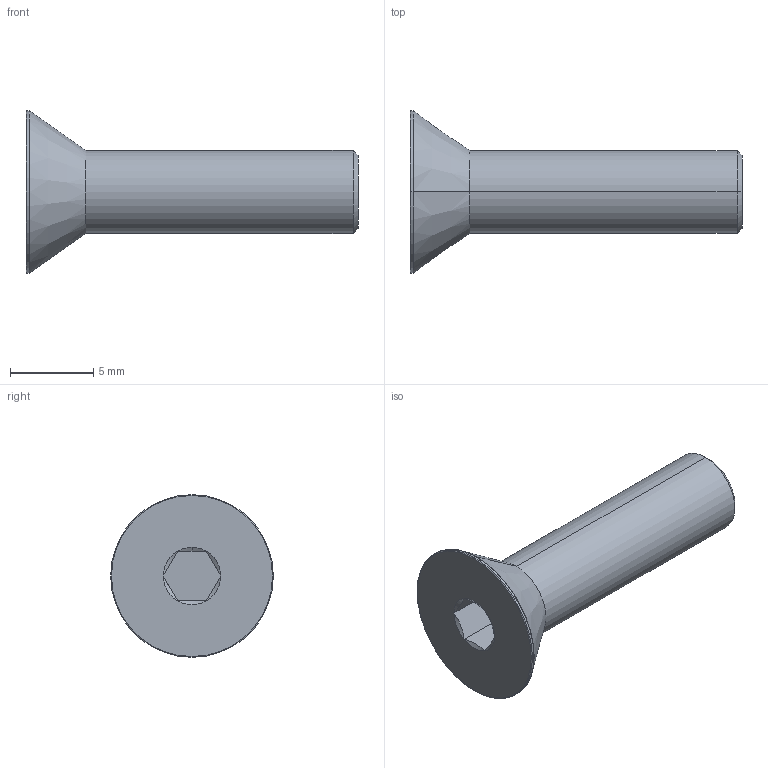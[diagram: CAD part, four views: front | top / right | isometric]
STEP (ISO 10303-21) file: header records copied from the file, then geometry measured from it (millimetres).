
FILE_DESCRIPTION (( 'STEP AP203' ), '1' );
FILE_NAME ('LGDB-304-M5x20.STEP', '2026-08-12T01:34:28', ( '' ), ( '' ), 'SwSTEP 2.0', 'SolidWorks 2020', '' );
FILE_SCHEMA (( 'CONFIG_CONTROL_DESIGN' ));
Length unit declared in the file: millimetre
Products named in the file (1): LGDB-304-M5x20
Bounding box: 20 x 9.8 x 9.8 mm (x, y, z)
Volume: 468.2 mm3; surface area: 477.3 mm2
Topology: 1 solids, 1 shells, 28 faces, 53 edges, 28 vertices
Faces by surface type: cone 11, plane 9, torus 4, cylinder 4
Entity records: 784 total; most frequent: CARTESIAN_POINT 145, DIRECTION 129, ORIENTED_EDGE 106, AXIS2_PLACEMENT_3D 54, EDGE_CURVE 53, EDGE_LOOP 29, ADVANCED_FACE 28, FACE_OUTER_BOUND 28
